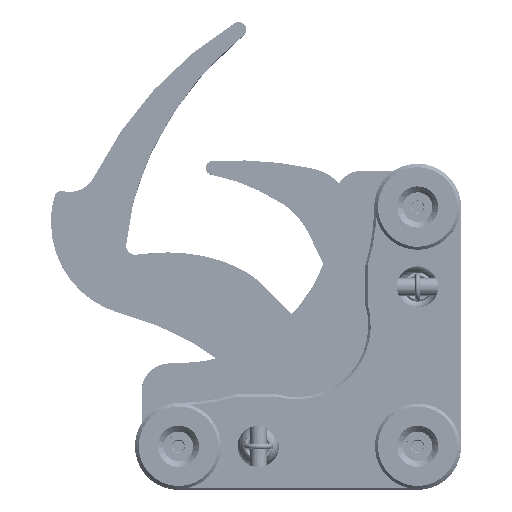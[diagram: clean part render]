
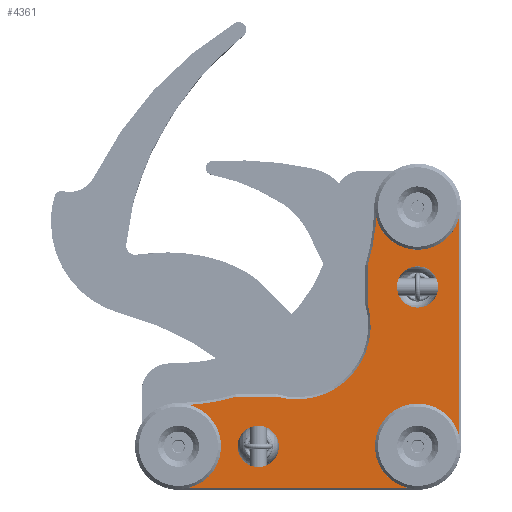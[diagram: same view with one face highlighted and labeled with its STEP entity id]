
A CAD part, top view. The second image highlights one B-rep face of the part: STEP entity #4361.
In plain terms, the highlighted planar face has unit normal (0, 0, 1).
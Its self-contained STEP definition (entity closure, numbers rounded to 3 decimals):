
#1=CARTESIAN_POINT('',(-9.525,9.525,15.748));
#2=DIRECTION('',(0.,0.,1.));
#3=DIRECTION('',(-1.,0.,0.));
#4=AXIS2_PLACEMENT_3D('',#1,#2,#3);
#6=CARTESIAN_POINT('',(-9.525,9.525,15.748));
#7=DIRECTION('',(0.,0.,1.));
#8=DIRECTION('',(1.,0.,0.));
#9=AXIS2_PLACEMENT_3D('',#6,#7,#8);
#11=CARTESIAN_POINT('',(-37.033,9.525,15.748));
#12=DIRECTION('',(0.,0.,1.));
#13=DIRECTION('',(-1.,0.,0.));
#14=AXIS2_PLACEMENT_3D('',#11,#12,#13);
#16=CARTESIAN_POINT('',(-37.033,9.525,15.748));
#17=DIRECTION('',(0.,0.,1.));
#18=DIRECTION('',(1.,0.,0.));
#19=AXIS2_PLACEMENT_3D('',#16,#17,#18);
#21=CARTESIAN_POINT('',(-50.8,9.525,15.748));
#22=DIRECTION('',(0.,0.,1.));
#23=DIRECTION('',(-1.,0.,0.));
#24=AXIS2_PLACEMENT_3D('',#21,#22,#23);
#26=CARTESIAN_POINT('',(-50.8,9.525,15.748));
#27=DIRECTION('',(0.,0.,1.));
#28=DIRECTION('',(1.,0.,0.));
#29=AXIS2_PLACEMENT_3D('',#26,#27,#28);
#31=CARTESIAN_POINT('',(-9.525,37.033,15.748));
#32=DIRECTION('',(0.,0.,1.));
#33=DIRECTION('',(-1.,0.,0.));
#34=AXIS2_PLACEMENT_3D('',#31,#32,#33);
#36=CARTESIAN_POINT('',(-9.525,37.033,15.748));
#37=DIRECTION('',(0.,0.,1.));
#38=DIRECTION('',(1.,0.,0.));
#39=AXIS2_PLACEMENT_3D('',#36,#37,#38);
#41=CARTESIAN_POINT('',(-9.525,50.8,15.748));
#42=DIRECTION('',(0.,0.,1.));
#43=DIRECTION('',(-1.,0.,0.));
#44=AXIS2_PLACEMENT_3D('',#41,#42,#43);
#46=CARTESIAN_POINT('',(-9.525,50.8,15.748));
#47=DIRECTION('',(0.,0.,1.));
#48=DIRECTION('',(1.,0.,0.));
#49=AXIS2_PLACEMENT_3D('',#46,#47,#48);
#51=DIRECTION('',(0.,-1.,0.));
#52=VECTOR('',#51,6.84);
#53=CARTESIAN_POINT('',(-18.125,40.786,15.748));
#54=LINE('',#53,#52);
#55=CARTESIAN_POINT('',(-50.8,50.8,15.748));
#56=DIRECTION('',(0.,0.,-1.));
#57=DIRECTION('',(1.,0.,0.));
#58=AXIS2_PLACEMENT_3D('',#55,#56,#57);
#60=CARTESIAN_POINT('',(-9.525,50.8,15.748));
#61=DIRECTION('',(0.,0.,1.));
#62=DIRECTION('',(1.,0.,0.));
#63=AXIS2_PLACEMENT_3D('',#60,#61,#62);
#65=DIRECTION('',(0.,1.,0.));
#66=VECTOR('',#65,41.275);
#67=CARTESIAN_POINT('',(-2.425,9.525,15.748));
#68=LINE('',#67,#66);
#69=CARTESIAN_POINT('',(-9.525,9.525,15.748));
#70=DIRECTION('',(0.,0.,1.));
#71=DIRECTION('',(0.,-1.,0.));
#72=AXIS2_PLACEMENT_3D('',#69,#70,#71);
#74=DIRECTION('',(1.,0.,0.));
#75=VECTOR('',#74,41.275);
#76=CARTESIAN_POINT('',(-50.8,2.425,15.748));
#77=LINE('',#76,#75);
#78=CARTESIAN_POINT('',(-50.8,9.525,15.748));
#79=DIRECTION('',(0.,0.,1.));
#80=DIRECTION('',(0.,1.,0.));
#81=AXIS2_PLACEMENT_3D('',#78,#79,#80);
#83=CARTESIAN_POINT('',(-50.8,50.8,15.748));
#84=DIRECTION('',(0.,0.,-1.));
#85=DIRECTION('',(0.293,-0.956,0.));
#86=AXIS2_PLACEMENT_3D('',#83,#84,#85);
#88=DIRECTION('',(-1.,0.,0.));
#89=VECTOR('',#88,6.84);
#90=CARTESIAN_POINT('',(-33.946,18.125,15.748));
#91=LINE('',#90,#89);
#3853=CARTESIAN_POINT('',(-30.383,30.383,15.748));
#3854=DIRECTION('',(0.,0.,-1.));
#3855=DIRECTION('',(0.96,0.279,0.));
#3856=AXIS2_PLACEMENT_3D('',#3853,#3854,#3855);
#3936=CARTESIAN_POINT('',(-13.891,9.525,15.748));
#3937=CARTESIAN_POINT('',(-5.159,9.525,15.748));
#3938=VERTEX_POINT('',#3936);
#3939=VERTEX_POINT('',#3937);
#3940=CARTESIAN_POINT('',(-40.602,9.525,15.748));
#3941=CARTESIAN_POINT('',(-33.465,9.525,15.748));
#3942=VERTEX_POINT('',#3940);
#3943=VERTEX_POINT('',#3941);
#3944=CARTESIAN_POINT('',(-55.166,9.525,15.748));
#3945=CARTESIAN_POINT('',(-46.434,9.525,15.748));
#3946=VERTEX_POINT('',#3944);
#3947=VERTEX_POINT('',#3945);
#3948=CARTESIAN_POINT('',(-13.094,37.033,15.748));
#3949=CARTESIAN_POINT('',(-5.956,37.033,15.748));
#3950=VERTEX_POINT('',#3948);
#3951=VERTEX_POINT('',#3949);
#3952=CARTESIAN_POINT('',(-13.891,50.8,15.748));
#3953=CARTESIAN_POINT('',(-5.159,50.8,15.748));
#3954=VERTEX_POINT('',#3952);
#3955=VERTEX_POINT('',#3953);
#4268=CARTESIAN_POINT('',(-18.125,40.786,15.748));
#4269=CARTESIAN_POINT('',(-18.125,33.946,15.748));
#4270=VERTEX_POINT('',#4268);
#4271=VERTEX_POINT('',#4269);
#4274=CARTESIAN_POINT('',(-16.625,50.8,15.748));
#4275=VERTEX_POINT('',#4274);
#4276=CARTESIAN_POINT('',(-2.425,50.8,15.748));
#4277=VERTEX_POINT('',#4276);
#4280=CARTESIAN_POINT('',(-2.425,9.525,15.748));
#4281=VERTEX_POINT('',#4280);
#4284=CARTESIAN_POINT('',(-9.525,2.425,15.748));
#4285=VERTEX_POINT('',#4284);
#4288=CARTESIAN_POINT('',(-50.8,2.425,15.748));
#4289=VERTEX_POINT('',#4288);
#4292=CARTESIAN_POINT('',(-50.8,16.625,15.748));
#4293=VERTEX_POINT('',#4292);
#4296=CARTESIAN_POINT('',(-40.786,18.125,15.748));
#4297=VERTEX_POINT('',#4296);
#4300=CARTESIAN_POINT('',(-33.946,18.125,15.748));
#4301=VERTEX_POINT('',#4300);
#4304=CARTESIAN_POINT('',(-28.575,28.575,15.748));
#4305=DIRECTION('',(0.,0.,1.));
#4306=DIRECTION('',(1.,0.,0.));
#4307=AXIS2_PLACEMENT_3D('',#4304,#4305,#4306);
#4308=PLANE('',#4307);
#4310=ORIENTED_EDGE('',*,*,#4309,.F.);
#4312=ORIENTED_EDGE('',*,*,#4311,.F.);
#4314=ORIENTED_EDGE('',*,*,#4313,.F.);
#4316=ORIENTED_EDGE('',*,*,#4315,.F.);
#4318=ORIENTED_EDGE('',*,*,#4317,.F.);
#4320=ORIENTED_EDGE('',*,*,#4319,.F.);
#4322=ORIENTED_EDGE('',*,*,#4321,.F.);
#4324=ORIENTED_EDGE('',*,*,#4323,.F.);
#4326=ORIENTED_EDGE('',*,*,#4325,.F.);
#4328=ORIENTED_EDGE('',*,*,#4327,.F.);
#4329=EDGE_LOOP('',(#4310,#4312,#4314,#4316,#4318,#4320,#4322,#4324,#4326,
#4328));
#4330=FACE_OUTER_BOUND('',#4329,.F.);
#4332=ORIENTED_EDGE('',*,*,#4331,.T.);
#4334=ORIENTED_EDGE('',*,*,#4333,.T.);
#4335=EDGE_LOOP('',(#4332,#4334));
#4336=FACE_BOUND('',#4335,.F.);
#4338=ORIENTED_EDGE('',*,*,#4337,.T.);
#4340=ORIENTED_EDGE('',*,*,#4339,.T.);
#4341=EDGE_LOOP('',(#4338,#4340));
#4342=FACE_BOUND('',#4341,.F.);
#4344=ORIENTED_EDGE('',*,*,#4343,.T.);
#4346=ORIENTED_EDGE('',*,*,#4345,.T.);
#4347=EDGE_LOOP('',(#4344,#4346));
#4348=FACE_BOUND('',#4347,.F.);
#4350=ORIENTED_EDGE('',*,*,#4349,.T.);
#4352=ORIENTED_EDGE('',*,*,#4351,.T.);
#4353=EDGE_LOOP('',(#4350,#4352));
#4354=FACE_BOUND('',#4353,.F.);
#4356=ORIENTED_EDGE('',*,*,#4355,.T.);
#4358=ORIENTED_EDGE('',*,*,#4357,.T.);
#4359=EDGE_LOOP('',(#4356,#4358));
#4360=FACE_BOUND('',#4359,.F.);
#4361=ADVANCED_FACE('',(#4330,#4336,#4342,#4348,#4354,#4360),#4308,.T.);
#5=CIRCLE('',#4,4.366);
#10=CIRCLE('',#9,4.366);
#15=CIRCLE('',#14,3.569);
#20=CIRCLE('',#19,3.569);
#25=CIRCLE('',#24,4.366);
#30=CIRCLE('',#29,4.366);
#35=CIRCLE('',#34,3.569);
#40=CIRCLE('',#39,3.569);
#45=CIRCLE('',#44,4.366);
#50=CIRCLE('',#49,4.366);
#59=CIRCLE('',#58,34.175);
#64=CIRCLE('',#63,7.1);
#73=CIRCLE('',#72,7.1);
#82=CIRCLE('',#81,7.1);
#87=CIRCLE('',#86,34.175);
#3857=CIRCLE('',#3856,12.765);
#4309=EDGE_CURVE('',#4271,#4301,#3857,.T.);
#4311=EDGE_CURVE('',#4270,#4271,#54,.T.);
#4313=EDGE_CURVE('',#4275,#4270,#59,.T.);
#4315=EDGE_CURVE('',#4277,#4275,#64,.T.);
#4317=EDGE_CURVE('',#4281,#4277,#68,.T.);
#4319=EDGE_CURVE('',#4285,#4281,#73,.T.);
#4321=EDGE_CURVE('',#4289,#4285,#77,.T.);
#4323=EDGE_CURVE('',#4293,#4289,#82,.T.);
#4325=EDGE_CURVE('',#4297,#4293,#87,.T.);
#4327=EDGE_CURVE('',#4301,#4297,#91,.T.);
#4331=EDGE_CURVE('',#3942,#3943,#15,.T.);
#4333=EDGE_CURVE('',#3943,#3942,#20,.T.);
#4337=EDGE_CURVE('',#3946,#3947,#25,.T.);
#4339=EDGE_CURVE('',#3947,#3946,#30,.T.);
#4343=EDGE_CURVE('',#3950,#3951,#35,.T.);
#4345=EDGE_CURVE('',#3951,#3950,#40,.T.);
#4349=EDGE_CURVE('',#3954,#3955,#45,.T.);
#4351=EDGE_CURVE('',#3955,#3954,#50,.T.);
#4355=EDGE_CURVE('',#3938,#3939,#5,.T.);
#4357=EDGE_CURVE('',#3939,#3938,#10,.T.);
